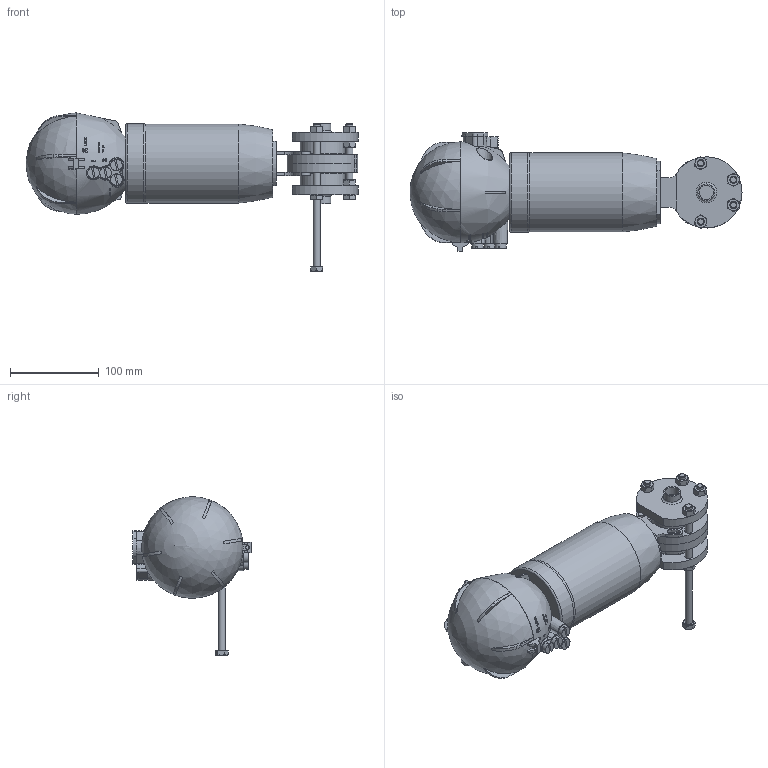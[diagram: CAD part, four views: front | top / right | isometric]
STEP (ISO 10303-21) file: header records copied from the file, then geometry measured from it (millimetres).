
FILE_DESCRIPTION(/* description */ ('ZVF V.FARF.DN15(19X1.5) WAF4 MACH83 SENC 316 EPDM'),/* implementation_level */ '2;1');
FILE_NAME(/* name */ 'BEAAC6015BEBA-00^SAGOMA.step',/* time_stamp */ '2026-09-24T09:11:49+02:00',/* author */ (''),/* organization */ (''),/* preprocessor_version */ 'ST-DEVELOPER v20.1',/* originating_system */ 'Autodesk Inventor 2026',/* authorisation */ '');
FILE_SCHEMA (('CONFIG_CONTROL_DESIGN'));
Length unit declared in the file: millimetre
Products named in the file (8): BEAAC6015BEBA; MEZZO-COR-DN025-WAFER-4; MACH83; Supporto-farf-DN25-65-; FLANGIA-DN19x1.5-WAFER-4; UNI 5739 - M8 x 80; UNI 5588 - M8; 3DAAJGIOAA006
Assembly tree (20 placements, depth 2):
  BEAAC6015BEBA
    MEZZO-COR-DN025-WAFER-4  x2
    UNI 5588 - M8  x8
    UNI 5739 - M8 x 80  x5
    MACH83
    Supporto-farf-DN25-65-
    FLANGIA-DN19x1.5-WAFER-4  x2
    3DAAJGIOAA006
Bounding box: 373.46 x 133 x 177.97 mm (x, y, z)
Volume: 2149518.4 mm3; surface area: 200307 mm2
Topology: 20 solids, 20 shells, 1114 faces, 2883 edges, 1868 vertices
Faces by surface type: plane 751, cone 182, cylinder 115, bspline 53, torus 12, sphere 1
Full cylindrical faces by diameter (mm): 3 x4, 4 x1, 6.2 x4, 6.647 x8, 7 x4, 8 x5, 8.5 x12, 11.63 x5, 13 x4, 16 x2, 18 x1, 19 x2, 50 x2, 89 x1, 90 x1
Entity records: 30230 total; most frequent: CARTESIAN_POINT 7317, DIRECTION 4789, ORIENTED_EDGE 4606, EDGE_CURVE 2303, AXIS2_PLACEMENT_3D 1982, VERTEX_POINT 1524, EDGE_LOOP 939, FACE_OUTER_BOUND 847
